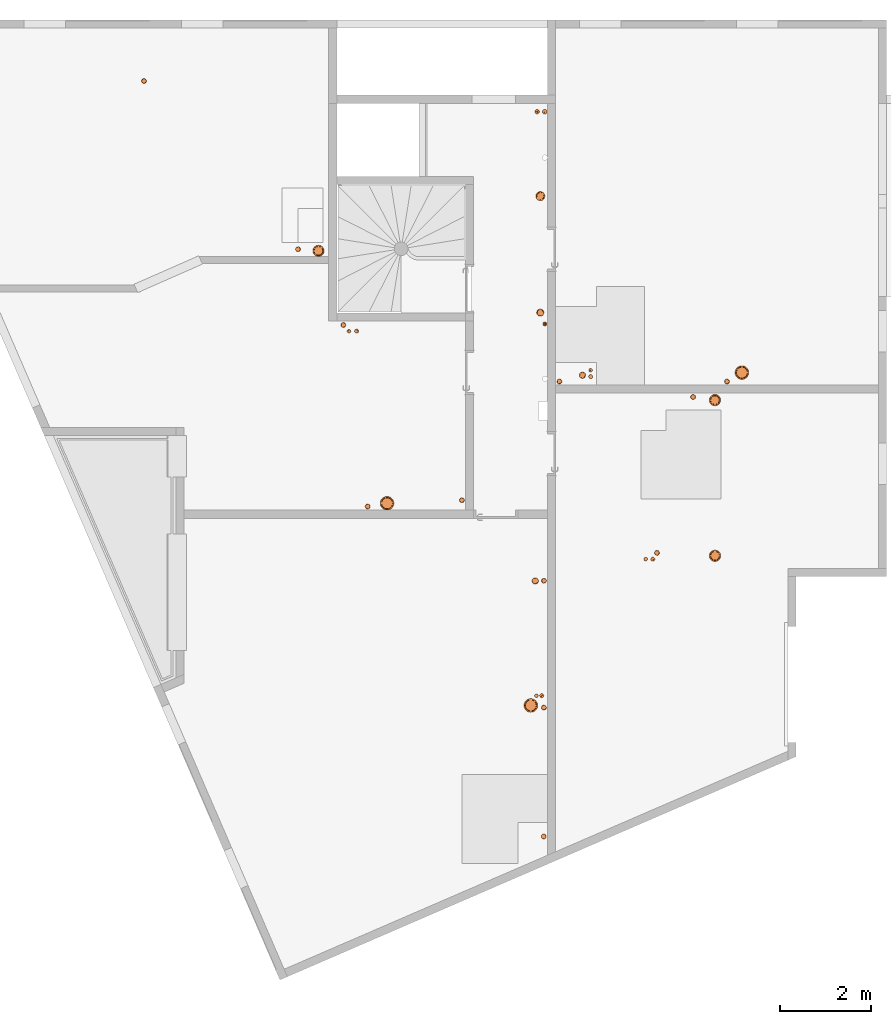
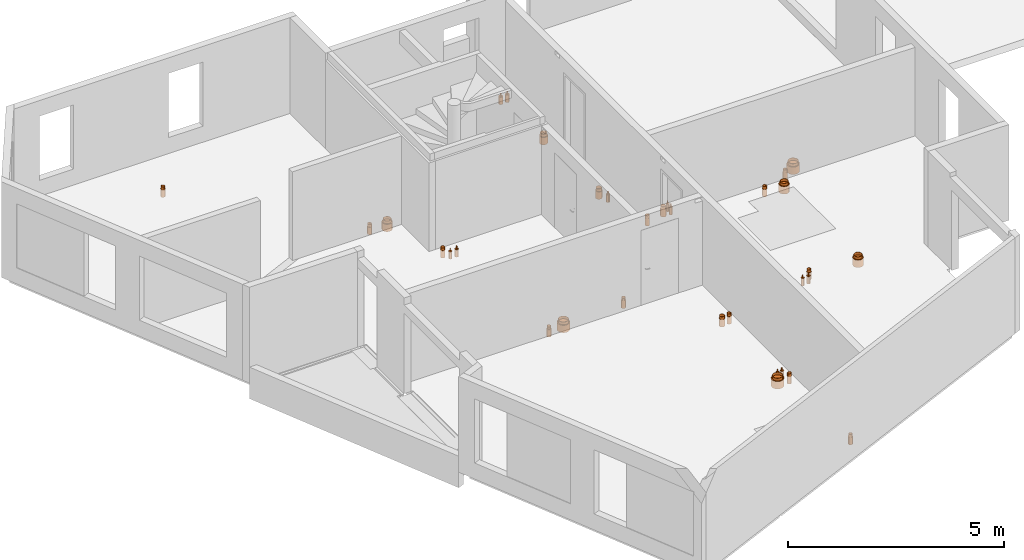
# One storey, part 20 of 24: 33 proxies.
"""IFC2X3 building model written with IfcOpenShell, lengths in centimetres."""

from ifc_helpers import new_model, entity, si_unit, converted_unit, derived_unit, direction, frame, frame_2d, origin, place, context, subcontext, project, spatial, circle, hollow_circle, extrude, source, transform, mapped, material, type_object, type_shapes, element, save


model = new_model("IFC2X3")

# Units and contexts
model_context = context("Model", 3, precision=0.001, world=origin(), true_north=direction((6.12303176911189e-17, 1.0)))
body_context = subcontext(model_context, "Body", "Model", "MODEL_VIEW")
ifc_project = project(units=[si_unit("LENGTHUNIT", "METRE", prefix="CENTI"), si_unit("AREAUNIT", "SQUARE_METRE"), si_unit("VOLUMEUNIT", "CUBIC_METRE"), converted_unit("PLANEANGLEUNIT", "DEGREE", entity("IfcRatioMeasure", 0.0174532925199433), si_unit("PLANEANGLEUNIT", "RADIAN"), dimensions=[0, 0, 0, 0, 0, 0, 0]), si_unit("MASSUNIT", "GRAM", prefix="KILO"), derived_unit("MASSDENSITYUNIT", [(si_unit("MASSUNIT", "GRAM", prefix="KILO"), 1), (si_unit("LENGTHUNIT", "METRE"), -3)]), si_unit("TIMEUNIT", "SECOND"), si_unit("FREQUENCYUNIT", "HERTZ"), si_unit("THERMODYNAMICTEMPERATUREUNIT", "DEGREE_CELSIUS"), derived_unit("THERMALTRANSMITTANCEUNIT", [(si_unit("MASSUNIT", "GRAM", prefix="KILO"), 1), (si_unit("THERMODYNAMICTEMPERATUREUNIT", "KELVIN"), -1), (si_unit("TIMEUNIT", "SECOND"), -3)]), derived_unit("VOLUMETRICFLOWRATEUNIT", [(si_unit("LENGTHUNIT", "METRE"), 3), (si_unit("TIMEUNIT", "SECOND"), -1)]), si_unit("ELECTRICCURRENTUNIT", "AMPERE"), si_unit("ELECTRICVOLTAGEUNIT", "VOLT"), si_unit("POWERUNIT", "WATT"), si_unit("FORCEUNIT", "NEWTON"), si_unit("ILLUMINANCEUNIT", "LUX"), si_unit("LUMINOUSFLUXUNIT", "LUMEN"), si_unit("LUMINOUSINTENSITYUNIT", "CANDELA"), derived_unit("USERDEFINED", [(si_unit("MASSUNIT", "GRAM", prefix="KILO"), -1), (si_unit("LENGTHUNIT", "METRE"), -2), (si_unit("TIMEUNIT", "SECOND"), 3), (si_unit("LUMINOUSFLUXUNIT", "LUMEN"), 1)]), derived_unit("LINEARVELOCITYUNIT", [(si_unit("LENGTHUNIT", "METRE"), 1), (si_unit("TIMEUNIT", "SECOND"), -1)]), si_unit("PRESSUREUNIT", "PASCAL"), derived_unit("USERDEFINED", [(si_unit("LENGTHUNIT", "METRE"), -2), (si_unit("MASSUNIT", "GRAM", prefix="KILO"), 1), (si_unit("TIMEUNIT", "SECOND"), -2)])], contexts=[model_context])

# Site, building, storey
site_placement = place(None, origin())
site = spatial("IfcSite", under=ifc_project, at=site_placement, Name="Default", CompositionType="ELEMENT")
building_placement = place(site_placement, origin())
building = spatial("IfcBuilding", under=site, at=building_placement, Name="CAGE 03", CompositionType="ELEMENT")
storey_placement = place(building_placement, frame((0.0, 0.0, 880.0)))
storey = spatial("IfcBuildingStorey", under=building, at=storey_placement, Name="R+3", CompositionType="ELEMENT", Elevation=880.0)

# Proxies
ifc_material_1 = material(Name="Conduit EU")
building_element_proxy_type_1 = type_object("IfcBuildingElementProxyType", Name="CFO125 P110", PredefinedType="NOTDEFINED", material=ifc_material_1)
shared_shape_1 = source(origin(), body_context, "Body", "SweptSolid", [
    extrude(circle(Radius=5.5, at=frame_2d((0.0, -8.88549515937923e-15), x_axis=(1.0, 0.0))), frame((0.0, 0.0, -21.0)), (0.0, 0.0, 1.0), 21.0),
    extrude(hollow_circle(Radius=5.0, WallThickness=0.25, at=frame_2d((0.0, -8.07772287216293e-15), x_axis=(1.0, 0.0))), frame((0.0, 0.0, -21.0)), (0.0, 0.0, 1.0), 28.5),
])
type_shapes(building_element_proxy_type_1, [shared_shape_1])
for number, where, name in (
    (1, (4160.6569914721, 4500.34430239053, -4.4699953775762e-07), "Galette - Résa - PVC2:CFO125 P110"),
    (2, (4528.36982956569, 4500.40173587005, -4.4699953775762e-07), "Galette - Résa - PVC2:CFO125 P110"),
    (3, (4454.09460730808, 4466.43426444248, -4.4699953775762e-07), "Galette - Résa - PVC2:CFO125 P110"),
):
    element("IfcBuildingElementProxy", number, at=place(storey_placement, frame(where)), inside=storey, type_object=building_element_proxy_type_1, material=ifc_material_1, Name=name, ObjectType="CFO125 P110", context=body_context, shape_type="MappedRepresentation", body=[
        mapped(shared_shape_1, transform((0.0, 0.0, 0.0), scale=1.0)),
    ])
proxy_1_placement = place(storey_placement, frame((4374.87721447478, 4124.41535228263, -4.4699953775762e-07), z_axis=(0.0, 0.0, 1.0), x_axis=(0.0, -1.0, 0.0)))
element("IfcBuildingElementProxy", 4, at=proxy_1_placement, inside=storey, type_object=building_element_proxy_type_1, material=ifc_material_1, Name="Galette - Résa - PVC2:CFO125 P110", ObjectType="CFO125 P110", context=body_context, shape_type="MappedRepresentation", body=[
    mapped(shared_shape_1, transform((0.0, 0.0, 0.0), scale=1.0)),
])
for number, where, name in (
    (5, (4126.31850092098, 3502.00058207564, -4.4699953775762e-07), "Galette - Résa - PVC2:CFO125 P110"),
    (6, (4126.59495990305, 3784.86941010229, -4.4699953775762e-07), "Galette - Résa - PVC2:CFO125 P110"),
    (7, (4126.59491931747, 4063.18336532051, -4.4699953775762e-07), "Galette - Résa - PVC2:CFO125 P110"),
    (8, (3739.92742510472, 4226.17996560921, -4.4699953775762e-07), "Galette - Résa - PVC2:CFO125 P110"),
    (9, (3946.58141975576, 4239.9111842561, -4.4699953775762e-07), "Galette - Résa - PVC2:CFO125 P110"),
    (10, (3686.59725003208, 4624.40274501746, -4.4699953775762e-07), "Galette - Résa - PVC2:CFO125 P110"),
    (11, (3587.36582014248, 4790.66275776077, -4.4699953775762e-07), "Galette - Résa - PVC2:CFO125 P110"),
):
    element("IfcBuildingElementProxy", number, at=place(storey_placement, frame(where)), inside=storey, type_object=building_element_proxy_type_1, material=ifc_material_1, Name=name, ObjectType="CFO125 P110", context=body_context, shape_type="MappedRepresentation", body=[
        mapped(shared_shape_1, transform((0.0, 0.0, 0.0), scale=1.0)),
    ])
ifc_material_2 = material(Name="Conduit VMC")
building_element_proxy_type_2 = type_object("IfcBuildingElementProxyType", Name="CFO235 P210", PredefinedType="NOTDEFINED", material=ifc_material_2)
shared_shape_2 = source(origin(), body_context, "Body", "SweptSolid", [
    extrude(circle(Radius=12.5, at=frame_2d((0.0, -2.01943071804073e-14), x_axis=(1.0, 0.0))), frame((0.0, 0.0, -21.0)), (0.0, 0.0, 1.0), 21.0),
    extrude(hollow_circle(Radius=10.0, WallThickness=0.5, at=frame_2d((0.0, -1.61554457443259e-14), x_axis=(1.0, 0.0))), frame((0.0, 0.0, -21.0)), (0.0, 0.0, 1.0), 28.5),
])
type_shapes(building_element_proxy_type_2, [shared_shape_2])
for number, where, name in (
    (12, (4502.05872684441, 4459.65163388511, -4.4699953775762e-07), "Galette - Résa - PVC2:CFO235 P210"),
    (13, (4502.05872684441, 4117.90353136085, -4.4699953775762e-07), "Galette - Résa - PVC2:CFO235 P210"),
    (14, (3632.02185080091, 4786.95104453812, -4.4699953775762e-07), "Galette - Résa - PVC2:CFO235 P210"),
):
    element("IfcBuildingElementProxy", number, at=place(storey_placement, frame(where)), inside=storey, type_object=building_element_proxy_type_2, material=ifc_material_2, Name=name, ObjectType="CFO235 P210", context=body_context, shape_type="MappedRepresentation", body=[
        mapped(shared_shape_2, transform((0.0, 0.0, 0.0), scale=1.0)),
    ])
ifc_material_3 = material(Name="Circuit ECS Retour")
building_element_proxy_type_3 = type_object("IfcBuildingElementProxyType", Name="CFO100 P80", PredefinedType="NOTDEFINED", material=ifc_material_3)
shared_shape_3 = source(origin(), body_context, "Body", "SweptSolid", [
    extrude(circle(Radius=4.0, at=frame_2d((0.0, -6.46217829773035e-15), x_axis=(1.0, 0.0))), frame((0.0, 0.0, -21.0)), (0.0, 0.0, 1.0), 21.0),
    extrude(hollow_circle(Radius=1.0, WallThickness=0.0500000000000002, at=frame_2d((0.0, -1.61554457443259e-15), x_axis=(1.0, 0.0))), frame((0.0, 0.0, -21.0)), (0.0, 0.0, 1.0), 28.5),
])
type_shapes(building_element_proxy_type_3, [shared_shape_3])
for number, where, name in (
    (15, (4229.33361205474, 4525.12957820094, -4.4699953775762e-07), "Galette - Résa - PVC2:CFO100 P80"),
    (16, (4350.08327257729, 4110.509063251, -4.4699953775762e-07), "Galette - Résa - PVC2:CFO100 P80"),
):
    element("IfcBuildingElementProxy", number, at=place(storey_placement, frame(where)), inside=storey, type_object=building_element_proxy_type_3, material=ifc_material_3, Name=name, ObjectType="CFO100 P80", context=body_context, shape_type="MappedRepresentation", body=[
        mapped(shared_shape_3, transform((0.0, 0.0, 0.0), scale=1.0)),
    ])
proxy_2_placement = place(storey_placement, frame((4110.36801673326, 3810.96567488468, -4.4699953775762e-07), z_axis=(0.0, 0.0, 1.0), x_axis=(0.0, -1.0, 0.0)))
element("IfcBuildingElementProxy", 17, at=proxy_2_placement, inside=storey, type_object=building_element_proxy_type_3, material=ifc_material_3, Name="Galette - Résa - PVC2:CFO100 P80", ObjectType="CFO100 P80", context=body_context, shape_type="MappedRepresentation", body=[
    mapped(shared_shape_3, transform((0.0, 0.0, 0.0), scale=1.0)),
])
proxy_3_placement = place(storey_placement, frame((3698.87015670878, 4610.91348814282, -4.4699953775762e-07)))
element("IfcBuildingElementProxy", 18, at=proxy_3_placement, inside=storey, type_object=building_element_proxy_type_3, material=ifc_material_3, Name="Galette - Résa - PVC2:CFO100 P80", ObjectType="CFO100 P80", context=body_context, shape_type="MappedRepresentation", body=[
    mapped(shared_shape_3, transform((0.0, 0.0, 0.0), scale=1.0)),
])
ifc_material_4 = material(Name="Circuit ECS Aller")
building_element_proxy_type_4 = type_object("IfcBuildingElementProxyType", Name="CFO100 P90", PredefinedType="NOTDEFINED", material=ifc_material_4)
shared_shape_4 = source(origin(), body_context, "Body", "SweptSolid", [
    extrude(circle(Radius=4.5, at=frame_2d((0.0, -7.26995058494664e-15), x_axis=(1.0, 0.0))), frame((0.0, 0.0, -21.0)), (0.0, 0.0, 1.0), 21.0),
    extrude(hollow_circle(Radius=1.6, WallThickness=0.05, at=frame_2d((0.0, -2.58487131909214e-15), x_axis=(1.0, 0.0))), frame((0.0, 0.0, -21.0)), (0.0, 0.0, 1.0), 28.5),
])
type_shapes(building_element_proxy_type_4, [shared_shape_4])
for number, where, name in (
    (19, (4229.33361205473, 4511.12957820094, -4.4699953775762e-07), "Galette - Résa - PVC2:CFO100 P90"),
    (20, (4365.58327257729, 4110.509063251, -4.4699953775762e-07), "Galette - Résa - PVC2:CFO100 P90"),
):
    element("IfcBuildingElementProxy", number, at=place(storey_placement, frame(where)), inside=storey, type_object=building_element_proxy_type_4, material=ifc_material_4, Name=name, ObjectType="CFO100 P90", context=body_context, shape_type="MappedRepresentation", body=[
        mapped(shared_shape_4, transform((0.0, 0.0, 0.0), scale=1.0)),
    ])
proxy_4_placement = place(storey_placement, frame((4121.86801673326, 3810.96567488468, -4.4699953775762e-07), z_axis=(0.0, 0.0, 1.0), x_axis=(0.0, -1.0, 0.0)))
element("IfcBuildingElementProxy", 21, at=proxy_4_placement, inside=storey, type_object=building_element_proxy_type_4, material=ifc_material_4, Name="Galette - Résa - PVC2:CFO100 P90", ObjectType="CFO100 P90", context=body_context, shape_type="MappedRepresentation", body=[
    mapped(shared_shape_4, transform((0.0, 0.0, 0.0), scale=1.0)),
])
proxy_5_placement = place(storey_placement, frame((3715.82551820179, 4610.91348814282, -4.4699953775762e-07)))
element("IfcBuildingElementProxy", 22, at=proxy_5_placement, inside=storey, type_object=building_element_proxy_type_4, material=ifc_material_4, Name="Galette - Résa - PVC2:CFO100 P90", ObjectType="CFO100 P90", context=body_context, shape_type="MappedRepresentation", body=[
    mapped(shared_shape_4, transform((0.0, 0.0, 0.0), scale=1.0)),
])
building_element_proxy_type_5 = type_object("IfcBuildingElementProxyType", Name="CFO285 P260", PredefinedType="NOTDEFINED", material=ifc_material_2)
shared_shape_5 = source(origin(), body_context, "Body", "SweptSolid", [
    extrude(circle(Radius=15.0, at=frame_2d((0.0, -2.42331686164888e-14), x_axis=(1.0, 0.0))), frame((0.0, 0.0, -21.0)), (0.0, 0.0, 1.0), 21.0),
    extrude(hollow_circle(Radius=12.5, WallThickness=0.499999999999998, at=frame_2d((0.0, -2.01943071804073e-14), x_axis=(1.0, 0.0))), frame((0.0, 0.0, -21.0)), (0.0, 0.0, 1.0), 28.5),
])
type_shapes(building_element_proxy_type_5, [shared_shape_5])
for number, where, name in (
    (23, (4561.07129081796, 4519.93412675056, -4.4699953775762e-07), "Galette - Résa - PVC2:CFO285 P260"),
    (24, (4097.97968134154, 3789.61941010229, -4.4699953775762e-07), "Galette - Résa - PVC2:CFO285 P260"),
    (25, (3782.56423441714, 4233.21735522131, -4.4699953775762e-07), "Galette - Résa - PVC2:CFO285 P260"),
):
    element("IfcBuildingElementProxy", number, at=place(storey_placement, frame(where)), inside=storey, type_object=building_element_proxy_type_5, material=ifc_material_2, Name=name, ObjectType="CFO285 P260", context=body_context, shape_type="MappedRepresentation", body=[
        mapped(shared_shape_5, transform((0.0, 0.0, 0.0), scale=1.0)),
    ])
ifc_material_5 = material(Name="Conduit EP")
building_element_proxy_type_6 = type_object("IfcBuildingElementProxyType", Name="EP 161", PredefinedType="NOTDEFINED", material=ifc_material_5)
shared_shape_6 = source(origin(), body_context, "Body", "SweptSolid", [
    extrude(circle(Radius=10.0, at=frame_2d((0.0, -1.61554457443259e-14), x_axis=(1.0, 0.0))), frame((0.0, 0.0, -21.0)), (0.0, 0.0, 1.0), 21.0),
    extrude(hollow_circle(Radius=8.0, WallThickness=0.250000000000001, at=frame_2d((0.0, -1.29243565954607e-14), x_axis=(1.0, 0.0))), frame((0.0, 0.0, -21.0)), (0.0, 0.0, 1.0), 28.5),
])
type_shapes(building_element_proxy_type_6, [shared_shape_6])
proxy_6_placement = place(storey_placement, frame((4118.79282427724, 4907.15627952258, -4.4699953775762e-07)))
element("IfcBuildingElementProxy", 26, at=proxy_6_placement, inside=storey, type_object=building_element_proxy_type_6, material=ifc_material_5, Name="Galette - Résa - PVC2:EP 161", ObjectType="EP 161", context=body_context, shape_type="MappedRepresentation", body=[
    mapped(shared_shape_6, transform((0.0, 0.0, 0.0), scale=1.0)),
])
ifc_material_6 = material(Name="Circuit CHF Aller")
building_element_proxy_type_7 = type_object("IfcBuildingElementProxyType", Name="CHF Aller 41", PredefinedType="NOTDEFINED", material=ifc_material_6)
shared_shape_7 = source(origin(), body_context, "Body", "SweptSolid", [
    extrude(circle(Radius=5.0, at=frame_2d((0.0, -8.07772287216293e-15), x_axis=(1.0, 0.0))), frame((0.0, 0.0, -21.0)), (0.0, 0.0, 1.0), 21.0),
    extrude(hollow_circle(Radius=2.0, WallThickness=0.4, at=frame_2d((0.0, -3.23108914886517e-15), x_axis=(1.0, 0.0))), frame((0.0, 0.0, -21.0)), (0.0, 0.0, 1.0), 28.5),
])
type_shapes(building_element_proxy_type_7, [shared_shape_7])
proxy_7_placement = place(storey_placement, frame((4111.59705654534, 5092.36066607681, -4.4699953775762e-07)))
element("IfcBuildingElementProxy", 27, at=proxy_7_placement, inside=storey, type_object=building_element_proxy_type_7, material=ifc_material_6, Name="Galette - Résa - PVC2:CHF Aller 41", ObjectType="CHF Aller 41", context=body_context, shape_type="MappedRepresentation", body=[
    mapped(shared_shape_7, transform((0.0, 0.0, 0.0), scale=1.0)),
])
ifc_material_7 = material(Name="Circuit CHF Retour")
building_element_proxy_type_8 = type_object("IfcBuildingElementProxyType", Name="CHF Retour 43", PredefinedType="NOTDEFINED", material=ifc_material_7)
shared_shape_8 = source(origin(), body_context, "Body", "SweptSolid", [
    extrude(circle(Radius=5.0, at=frame_2d((0.0, -8.07772287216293e-15), x_axis=(1.0, 0.0))), frame((0.0, 0.0, -21.0)), (0.0, 0.0, 1.0), 21.0),
    extrude(hollow_circle(Radius=2.0, WallThickness=0.4, at=frame_2d((0.0, -3.23108914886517e-15), x_axis=(1.0, 0.0))), frame((0.0, 0.0, -21.0)), (0.0, 0.0, 1.0), 28.5),
])
type_shapes(building_element_proxy_type_8, [shared_shape_8])
proxy_8_placement = place(storey_placement, frame((4128.59705654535, 5092.36066607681, -4.4699953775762e-07)))
element("IfcBuildingElementProxy", 28, at=proxy_8_placement, inside=storey, type_object=building_element_proxy_type_8, material=ifc_material_7, Name="Galette - Résa - PVC2:CHF Retour 43", ObjectType="CHF Retour 43", context=body_context, shape_type="MappedRepresentation", body=[
    mapped(shared_shape_8, transform((0.0, 0.0, 0.0), scale=1.0)),
])
building_element_proxy_type_9 = type_object("IfcBuildingElementProxyType", Name="CFO140 P135", PredefinedType="NOTDEFINED", material=ifc_material_2)
shared_shape_9 = source(origin(), body_context, "Body", "SweptSolid", [
    extrude(circle(Radius=7.0, at=frame_2d((0.0, -1.13088120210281e-14), x_axis=(1.0, 0.0))), frame((0.0, 0.0, -21.0)), (0.0, 0.0, 1.0), 21.0),
    extrude(hollow_circle(Radius=6.25, WallThickness=0.25, at=frame_2d((0.0, -1.00971535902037e-14), x_axis=(1.0, 0.0))), frame((0.0, 0.0, -21.0)), (0.0, 0.0, 1.0), 28.5),
])
type_shapes(building_element_proxy_type_9, [shared_shape_9])
for number, where, name in (
    (29, (4211.2793522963, 4514.26405606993, -4.4699953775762e-07), "Galette - Résa - PVC2:CFO140 P135"),
    (30, (4107.50728480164, 4062.77600289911, -4.4699953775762e-07), "Galette - Résa - PVC2:CFO140 P135"),
):
    element("IfcBuildingElementProxy", number, at=place(storey_placement, frame(where)), inside=storey, type_object=building_element_proxy_type_9, material=ifc_material_2, Name=name, ObjectType="CFO140 P135", context=body_context, shape_type="MappedRepresentation", body=[
        mapped(shared_shape_9, transform((0.0, 0.0, 0.0), scale=1.0)),
    ])
building_element_proxy_type_10 = type_object("IfcBuildingElementProxyType", Name="CFO160 P150", PredefinedType="NOTDEFINED", material=ifc_material_5)
shared_shape_10 = source(origin(), body_context, "Body", "SweptSolid", [
    extrude(circle(Radius=8.0, at=frame_2d((0.0, -1.29243565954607e-14), x_axis=(1.0, 0.0))), frame((0.0, 0.0, -21.0)), (0.0, 0.0, 1.0), 21.0),
    extrude(hollow_circle(Radius=7.0, WallThickness=0.25, at=frame_2d((0.0, -1.13088120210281e-14), x_axis=(1.0, 0.0))), frame((0.0, 0.0, -21.0)), (0.0, 0.0, 1.0), 28.5),
])
type_shapes(building_element_proxy_type_10, [shared_shape_10])
proxy_9_placement = place(storey_placement, frame((4118.7448452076, 4651.62070743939, -4.4699953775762e-07)))
element("IfcBuildingElementProxy", 31, at=proxy_9_placement, inside=storey, type_object=building_element_proxy_type_10, material=ifc_material_5, Name="Galette - Résa - PVC2:CFO160 P150", ObjectType="CFO160 P150", context=body_context, shape_type="MappedRepresentation", body=[
    mapped(shared_shape_10, transform((0.0, 0.0, 0.0), scale=1.0)),
])
ifc_material_8 = material(Name="Circuit EF")
building_element_proxy_type_11 = type_object("IfcBuildingElementProxyType", Name="EF 41", PredefinedType="NOTDEFINED", material=ifc_material_8)
shared_shape_11 = source(origin(), body_context, "Body", "SweptSolid", [
    extrude(circle(Radius=4.5, at=frame_2d((0.0, -7.26995058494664e-15), x_axis=(1.0, 0.0))), frame((0.0, 0.0, -21.0)), (0.0, 0.0, 1.0), 21.0),
    extrude(hollow_circle(Radius=2.2, WallThickness=0.449999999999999, at=frame_2d((0.0, -3.55419806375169e-15), x_axis=(1.0, 0.0))), frame((0.0, 0.0, -21.0)), (0.0, 0.0, 1.0), 28.5),
])
type_shapes(building_element_proxy_type_11, [shared_shape_11])
proxy_10_placement = place(storey_placement, frame((4128.59495990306, 4626.63859506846, -4.4699953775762e-07)))
element("IfcBuildingElementProxy", 32, at=proxy_10_placement, inside=storey, type_object=building_element_proxy_type_11, material=ifc_material_8, Name="Galette - Résa - PVC2:EF 41", ObjectType="EF 41", context=body_context, shape_type="MappedRepresentation", body=[
    mapped(shared_shape_11, transform((0.0, 0.0, 0.0), scale=1.0)),
])
building_element_proxy_type_12 = type_object("IfcBuildingElementProxyType", Name="EP 101", PredefinedType="NOTDEFINED", material=ifc_material_5)
shared_shape_12 = source(origin(), body_context, "Body", "SweptSolid", [
    extrude(circle(Radius=5.5, at=frame_2d((0.0, -8.88549515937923e-15), x_axis=(1.0, 0.0))), frame((0.0, 0.0, -21.0)), (0.0, 0.0, 1.0), 21.0),
    extrude(hollow_circle(Radius=5.0, WallThickness=0.25, at=frame_2d((0.0, -8.07772287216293e-15), x_axis=(1.0, 0.0))), frame((0.0, 0.0, -21.0)), (0.0, 0.0, 1.0), 28.5),
])
type_shapes(building_element_proxy_type_12, [shared_shape_12])
proxy_11_placement = place(storey_placement, frame((3249.08785498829, 5159.70173105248, -4.4699953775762e-07)))
element("IfcBuildingElementProxy", 33, at=proxy_11_placement, inside=storey, type_object=building_element_proxy_type_12, material=ifc_material_5, Name="Galette - Résa - PVC2:EP 101", ObjectType="EP 101", context=body_context, shape_type="MappedRepresentation", body=[
    mapped(shared_shape_12, transform((0.0, 0.0, 0.0), scale=1.0)),
])

save(model, "model.ifc")
